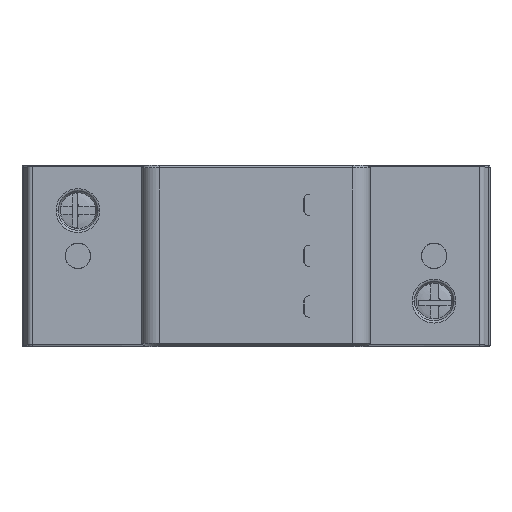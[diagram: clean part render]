
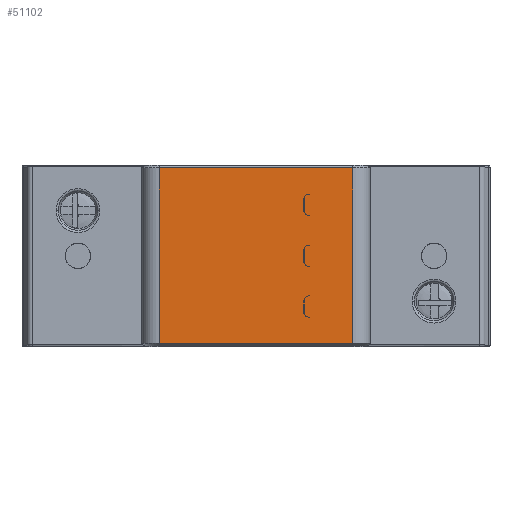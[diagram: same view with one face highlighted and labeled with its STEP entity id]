
A CAD part, top view. The second image highlights one B-rep face of the part: STEP entity #51102.
In plain terms, the highlighted planar face has unit normal (0, 0, 1).
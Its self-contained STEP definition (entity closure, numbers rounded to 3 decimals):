
#5343=DIRECTION('',(1.,0.,0.));
#5344=VECTOR('',#5343,38.);
#5345=CARTESIAN_POINT('',(26.,35.05,31.2));
#5346=LINE('',#5345,#5344);
#5488=DIRECTION('',(0.,-1.,0.));
#5489=VECTOR('',#5488,34.5);
#5490=CARTESIAN_POINT('',(64.,35.05,31.2));
#5491=LINE('',#5490,#5489);
#5509=DIRECTION('',(-1.,0.,0.));
#5510=VECTOR('',#5509,38.);
#5511=CARTESIAN_POINT('',(64.,0.55,31.2));
#5512=LINE('',#5511,#5510);
#5526=DIRECTION('',(0.,1.,0.));
#5527=VECTOR('',#5526,34.5);
#5528=CARTESIAN_POINT('',(26.,0.55,31.2));
#5529=LINE('',#5528,#5527);
#5534=CARTESIAN_POINT('',(55.45,6.7,31.2));
#5535=DIRECTION('',(0.,0.,1.));
#5536=DIRECTION('',(-1.,0.,0.));
#5537=AXIS2_PLACEMENT_3D('',#5534,#5535,#5536);
#5539=DIRECTION('',(0.,-1.,0.));
#5540=VECTOR('',#5539,2.2);
#5541=CARTESIAN_POINT('',(54.45,8.9,31.2));
#5542=LINE('',#5541,#5540);
#5543=CARTESIAN_POINT('',(55.45,8.9,31.2));
#5544=DIRECTION('',(0.,0.,1.));
#5545=DIRECTION('',(0.,1.,0.));
#5546=AXIS2_PLACEMENT_3D('',#5543,#5544,#5545);
#5548=CARTESIAN_POINT('',(55.4,8.9,31.2));
#5549=DIRECTION('',(0.,0.,-1.));
#5550=DIRECTION('',(-1.,0.,0.));
#5551=AXIS2_PLACEMENT_3D('',#5548,#5549,#5550);
#5553=CARTESIAN_POINT('',(55.4,6.7,31.2));
#5554=DIRECTION('',(0.,0.,-1.));
#5555=DIRECTION('',(0.,-1.,0.));
#5556=AXIS2_PLACEMENT_3D('',#5553,#5554,#5555);
#5558=CARTESIAN_POINT('',(55.45,16.7,31.2));
#5559=DIRECTION('',(0.,0.,1.));
#5560=DIRECTION('',(-1.,0.,0.));
#5561=AXIS2_PLACEMENT_3D('',#5558,#5559,#5560);
#5563=DIRECTION('',(0.,-1.,0.));
#5564=VECTOR('',#5563,2.2);
#5565=CARTESIAN_POINT('',(54.45,18.9,31.2));
#5566=LINE('',#5565,#5564);
#5567=CARTESIAN_POINT('',(55.45,18.9,31.2));
#5568=DIRECTION('',(0.,0.,1.));
#5569=DIRECTION('',(0.,1.,0.));
#5570=AXIS2_PLACEMENT_3D('',#5567,#5568,#5569);
#5572=CARTESIAN_POINT('',(55.4,18.9,31.2));
#5573=DIRECTION('',(0.,0.,-1.));
#5574=DIRECTION('',(-1.,0.,0.));
#5575=AXIS2_PLACEMENT_3D('',#5572,#5573,#5574);
#5577=CARTESIAN_POINT('',(55.4,16.7,31.2));
#5578=DIRECTION('',(0.,0.,-1.));
#5579=DIRECTION('',(0.,-1.,0.));
#5580=AXIS2_PLACEMENT_3D('',#5577,#5578,#5579);
#5582=CARTESIAN_POINT('',(55.45,26.7,31.2));
#5583=DIRECTION('',(0.,0.,1.));
#5584=DIRECTION('',(-1.,0.,0.));
#5585=AXIS2_PLACEMENT_3D('',#5582,#5583,#5584);
#5587=DIRECTION('',(0.,-1.,0.));
#5588=VECTOR('',#5587,2.2);
#5589=CARTESIAN_POINT('',(54.45,28.9,31.2));
#5590=LINE('',#5589,#5588);
#5591=CARTESIAN_POINT('',(55.45,28.9,31.2));
#5592=DIRECTION('',(0.,0.,1.));
#5593=DIRECTION('',(0.,1.,0.));
#5594=AXIS2_PLACEMENT_3D('',#5591,#5592,#5593);
#5596=CARTESIAN_POINT('',(55.4,28.9,31.2));
#5597=DIRECTION('',(0.,0.,-1.));
#5598=DIRECTION('',(-1.,0.,0.));
#5599=AXIS2_PLACEMENT_3D('',#5596,#5597,#5598);
#5601=CARTESIAN_POINT('',(55.4,26.7,31.2));
#5602=DIRECTION('',(0.,0.,-1.));
#5603=DIRECTION('',(0.,-1.,0.));
#5604=AXIS2_PLACEMENT_3D('',#5601,#5602,#5603);
#5610=DIRECTION('',(1.,0.,0.));
#5611=VECTOR('',#5610,0.05);
#5612=CARTESIAN_POINT('',(55.4,5.7,31.2));
#5613=LINE('',#5612,#5611);
#15910=DIRECTION('',(0.,-1.,0.));
#15911=VECTOR('',#15910,2.2);
#15912=CARTESIAN_POINT('',(54.4,18.9,31.2));
#15913=LINE('',#15912,#15911);
#15931=DIRECTION('',(1.,0.,0.));
#15932=VECTOR('',#15931,0.05);
#15933=CARTESIAN_POINT('',(55.4,15.7,31.2));
#15934=LINE('',#15933,#15932);
#15977=DIRECTION('',(-1.,0.,0.));
#15978=VECTOR('',#15977,0.05);
#15979=CARTESIAN_POINT('',(55.45,19.9,31.2));
#15980=LINE('',#15979,#15978);
#16186=DIRECTION('',(0.,-1.,0.));
#16187=VECTOR('',#16186,2.2);
#16188=CARTESIAN_POINT('',(54.4,28.9,31.2));
#16189=LINE('',#16188,#16187);
#16207=DIRECTION('',(1.,0.,0.));
#16208=VECTOR('',#16207,0.05);
#16209=CARTESIAN_POINT('',(55.4,25.7,31.2));
#16210=LINE('',#16209,#16208);
#16253=DIRECTION('',(-1.,0.,0.));
#16254=VECTOR('',#16253,0.05);
#16255=CARTESIAN_POINT('',(55.45,29.9,31.2));
#16256=LINE('',#16255,#16254);
#16463=DIRECTION('',(0.,-1.,0.));
#16464=VECTOR('',#16463,2.2);
#16465=CARTESIAN_POINT('',(54.4,8.9,31.2));
#16466=LINE('',#16465,#16464);
#16488=DIRECTION('',(-1.,0.,0.));
#16489=VECTOR('',#16488,0.05);
#16490=CARTESIAN_POINT('',(55.45,9.9,31.2));
#16491=LINE('',#16490,#16489);
#43004=CARTESIAN_POINT('',(55.4,15.7,31.2));
#43005=CARTESIAN_POINT('',(54.4,16.7,31.2));
#43006=VERTEX_POINT('',#43004);
#43007=VERTEX_POINT('',#43005);
#43008=CARTESIAN_POINT('',(54.4,18.9,31.2));
#43009=VERTEX_POINT('',#43008);
#43010=CARTESIAN_POINT('',(55.4,19.9,31.2));
#43011=VERTEX_POINT('',#43010);
#43012=CARTESIAN_POINT('',(55.4,25.7,31.2));
#43013=CARTESIAN_POINT('',(54.4,26.7,31.2));
#43014=VERTEX_POINT('',#43012);
#43015=VERTEX_POINT('',#43013);
#43016=CARTESIAN_POINT('',(54.4,28.9,31.2));
#43017=VERTEX_POINT('',#43016);
#43018=CARTESIAN_POINT('',(55.4,29.9,31.2));
#43019=VERTEX_POINT('',#43018);
#43020=CARTESIAN_POINT('',(55.4,5.7,31.2));
#43021=CARTESIAN_POINT('',(54.4,6.7,31.2));
#43022=VERTEX_POINT('',#43020);
#43023=VERTEX_POINT('',#43021);
#43024=CARTESIAN_POINT('',(54.4,8.9,31.2));
#43025=VERTEX_POINT('',#43024);
#43026=CARTESIAN_POINT('',(55.4,9.9,31.2));
#43027=VERTEX_POINT('',#43026);
#43028=CARTESIAN_POINT('',(64.,35.05,31.2));
#43029=CARTESIAN_POINT('',(64.,0.55,31.2));
#43030=VERTEX_POINT('',#43028);
#43031=VERTEX_POINT('',#43029);
#43032=CARTESIAN_POINT('',(26.,35.05,31.2));
#43033=VERTEX_POINT('',#43032);
#43034=CARTESIAN_POINT('',(26.,0.55,31.2));
#43035=VERTEX_POINT('',#43034);
#45089=CARTESIAN_POINT('',(54.45,8.9,31.2));
#45090=CARTESIAN_POINT('',(54.45,6.7,31.2));
#45091=VERTEX_POINT('',#45089);
#45092=VERTEX_POINT('',#45090);
#45109=CARTESIAN_POINT('',(55.45,9.9,31.2));
#45110=VERTEX_POINT('',#45109);
#45111=CARTESIAN_POINT('',(55.45,5.7,31.2));
#45112=VERTEX_POINT('',#45111);
#45121=CARTESIAN_POINT('',(54.45,18.9,31.2));
#45122=CARTESIAN_POINT('',(54.45,16.7,31.2));
#45123=VERTEX_POINT('',#45121);
#45124=VERTEX_POINT('',#45122);
#45141=CARTESIAN_POINT('',(55.45,19.9,31.2));
#45142=VERTEX_POINT('',#45141);
#45143=CARTESIAN_POINT('',(55.45,15.7,31.2));
#45144=VERTEX_POINT('',#45143);
#45153=CARTESIAN_POINT('',(54.45,28.9,31.2));
#45154=CARTESIAN_POINT('',(54.45,26.7,31.2));
#45155=VERTEX_POINT('',#45153);
#45156=VERTEX_POINT('',#45154);
#45173=CARTESIAN_POINT('',(55.45,29.9,31.2));
#45174=VERTEX_POINT('',#45173);
#45175=CARTESIAN_POINT('',(55.45,25.7,31.2));
#45176=VERTEX_POINT('',#45175);
#51037=CARTESIAN_POINT('',(45.,17.8,31.2));
#51038=DIRECTION('',(0.,0.,1.));
#51039=DIRECTION('',(1.,0.,0.));
#51040=AXIS2_PLACEMENT_3D('',#51037,#51038,#51039);
#51041=PLANE('',#51040);
#51042=ORIENTED_EDGE('',*,*,#50977,.T.);
#51043=ORIENTED_EDGE('',*,*,#51005,.T.);
#51044=ORIENTED_EDGE('',*,*,#51028,.T.);
#51045=ORIENTED_EDGE('',*,*,#50810,.T.);
#51046=EDGE_LOOP('',(#51042,#51043,#51044,#51045));
#51047=FACE_OUTER_BOUND('',#51046,.F.);
#51049=ORIENTED_EDGE('',*,*,#51048,.T.);
#51051=ORIENTED_EDGE('',*,*,#51050,.F.);
#51053=ORIENTED_EDGE('',*,*,#51052,.F.);
#51055=ORIENTED_EDGE('',*,*,#51054,.F.);
#51057=ORIENTED_EDGE('',*,*,#51056,.T.);
#51059=ORIENTED_EDGE('',*,*,#51058,.F.);
#51061=ORIENTED_EDGE('',*,*,#51060,.T.);
#51063=ORIENTED_EDGE('',*,*,#51062,.F.);
#51064=EDGE_LOOP('',(#51049,#51051,#51053,#51055,#51057,#51059,#51061,#51063));
#51065=FACE_BOUND('',#51064,.F.);
#51067=ORIENTED_EDGE('',*,*,#51066,.T.);
#51069=ORIENTED_EDGE('',*,*,#51068,.F.);
#51071=ORIENTED_EDGE('',*,*,#51070,.F.);
#51073=ORIENTED_EDGE('',*,*,#51072,.F.);
#51075=ORIENTED_EDGE('',*,*,#51074,.T.);
#51077=ORIENTED_EDGE('',*,*,#51076,.F.);
#51079=ORIENTED_EDGE('',*,*,#51078,.T.);
#51081=ORIENTED_EDGE('',*,*,#51080,.F.);
#51082=EDGE_LOOP('',(#51067,#51069,#51071,#51073,#51075,#51077,#51079,#51081));
#51083=FACE_BOUND('',#51082,.F.);
#51085=ORIENTED_EDGE('',*,*,#51084,.T.);
#51087=ORIENTED_EDGE('',*,*,#51086,.F.);
#51089=ORIENTED_EDGE('',*,*,#51088,.F.);
#51091=ORIENTED_EDGE('',*,*,#51090,.F.);
#51093=ORIENTED_EDGE('',*,*,#51092,.T.);
#51095=ORIENTED_EDGE('',*,*,#51094,.F.);
#51097=ORIENTED_EDGE('',*,*,#51096,.T.);
#51099=ORIENTED_EDGE('',*,*,#51098,.F.);
#51100=EDGE_LOOP('',(#51085,#51087,#51089,#51091,#51093,#51095,#51097,#51099));
#51101=FACE_BOUND('',#51100,.F.);
#51102=ADVANCED_FACE('',(#51047,#51065,#51083,#51101),#51041,.T.);
#5538=CIRCLE('',#5537,1.);
#5547=CIRCLE('',#5546,1.);
#5552=CIRCLE('',#5551,1.);
#5557=CIRCLE('',#5556,1.);
#5562=CIRCLE('',#5561,1.);
#5571=CIRCLE('',#5570,1.);
#5576=CIRCLE('',#5575,1.);
#5581=CIRCLE('',#5580,1.);
#5586=CIRCLE('',#5585,1.);
#5595=CIRCLE('',#5594,1.);
#5600=CIRCLE('',#5599,1.);
#5605=CIRCLE('',#5604,1.);
#50810=EDGE_CURVE('',#43033,#43030,#5346,.T.);
#50977=EDGE_CURVE('',#43030,#43031,#5491,.T.);
#51005=EDGE_CURVE('',#43031,#43035,#5512,.T.);
#51028=EDGE_CURVE('',#43035,#43033,#5529,.T.);
#51048=EDGE_CURVE('',#43022,#45112,#5613,.T.);
#51050=EDGE_CURVE('',#45092,#45112,#5538,.T.);
#51052=EDGE_CURVE('',#45091,#45092,#5542,.T.);
#51054=EDGE_CURVE('',#45110,#45091,#5547,.T.);
#51056=EDGE_CURVE('',#45110,#43027,#16491,.T.);
#51058=EDGE_CURVE('',#43025,#43027,#5552,.T.);
#51060=EDGE_CURVE('',#43025,#43023,#16466,.T.);
#51062=EDGE_CURVE('',#43022,#43023,#5557,.T.);
#51066=EDGE_CURVE('',#43006,#45144,#15934,.T.);
#51068=EDGE_CURVE('',#45124,#45144,#5562,.T.);
#51070=EDGE_CURVE('',#45123,#45124,#5566,.T.);
#51072=EDGE_CURVE('',#45142,#45123,#5571,.T.);
#51074=EDGE_CURVE('',#45142,#43011,#15980,.T.);
#51076=EDGE_CURVE('',#43009,#43011,#5576,.T.);
#51078=EDGE_CURVE('',#43009,#43007,#15913,.T.);
#51080=EDGE_CURVE('',#43006,#43007,#5581,.T.);
#51084=EDGE_CURVE('',#43014,#45176,#16210,.T.);
#51086=EDGE_CURVE('',#45156,#45176,#5586,.T.);
#51088=EDGE_CURVE('',#45155,#45156,#5590,.T.);
#51090=EDGE_CURVE('',#45174,#45155,#5595,.T.);
#51092=EDGE_CURVE('',#45174,#43019,#16256,.T.);
#51094=EDGE_CURVE('',#43017,#43019,#5600,.T.);
#51096=EDGE_CURVE('',#43017,#43015,#16189,.T.);
#51098=EDGE_CURVE('',#43014,#43015,#5605,.T.);
